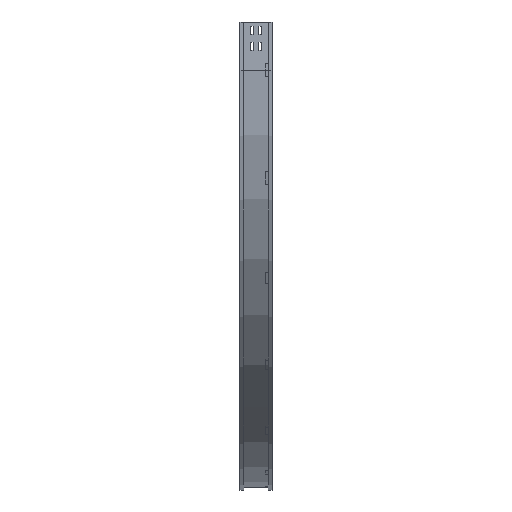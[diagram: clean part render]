
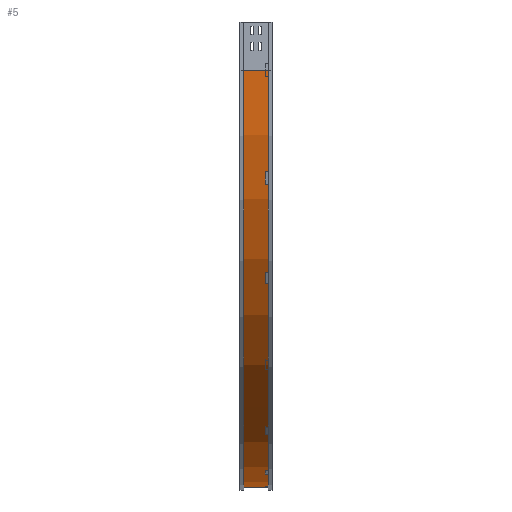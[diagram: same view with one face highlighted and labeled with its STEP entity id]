
A CAD part, left-side view. The second image highlights one B-rep face of the part: STEP entity #5.
In plain terms, the highlighted cylindrical face has radius 1300 mm (diameter 2600 mm), a partial arc.
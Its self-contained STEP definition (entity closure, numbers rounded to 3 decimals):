
#5 = ADVANCED_FACE ( 'NONE', ( #4155 ), #1339, .T. ) ;
#223 = VERTEX_POINT ( 'NONE', #1619 ) ;
#304 = CARTESIAN_POINT ( 'NONE',  ( 1309., 88., -150. ) ) ;
#426 = LINE ( 'NONE', #3242, #625 ) ;
#427 = CARTESIAN_POINT ( 'NONE',  ( 9., 12., -150. ) ) ;
#490 = EDGE_CURVE ( 'NONE', #223, #1748, #1092, .T. ) ;
#501 = ORIENTED_EDGE ( 'NONE', *, *, #1650, .T. ) ;
#625 = VECTOR ( 'NONE', #747, 1000. ) ;
#747 = DIRECTION ( 'NONE',  ( 0., -1., 0. ) ) ;
#985 = CARTESIAN_POINT ( 'NONE',  ( 1309., 12., -150. ) ) ;
#995 = DIRECTION ( 'NONE',  ( 0., 0., -1. ) ) ;
#1092 = LINE ( 'NONE', #1116, #3055 ) ;
#1116 = CARTESIAN_POINT ( 'NONE',  ( 1309., 12., -1450. ) ) ;
#1150 = ORIENTED_EDGE ( 'NONE', *, *, #490, .T. ) ;
#1216 = CIRCLE ( 'NONE', #3928, 1300. ) ;
#1287 = VERTEX_POINT ( 'NONE', #1508 ) ;
#1339 = CYLINDRICAL_SURFACE ( 'NONE', #4070, 1300. ) ;
#1359 = AXIS2_PLACEMENT_3D ( 'NONE', #985, #4513, #3831 ) ;
#1441 = CIRCLE ( 'NONE', #1359, 1300. ) ;
#1508 = CARTESIAN_POINT ( 'NONE',  ( 9., 88., -150. ) ) ;
#1619 = CARTESIAN_POINT ( 'NONE',  ( 1309., 88., -1450. ) ) ;
#1650 = EDGE_CURVE ( 'NONE', #1287, #223, #1216, .T. ) ;
#1726 = EDGE_LOOP ( 'NONE', ( #4306, #2645, #501, #1150 ) ) ;
#1748 = VERTEX_POINT ( 'NONE', #2222 ) ;
#1762 = DIRECTION ( 'NONE',  ( -1., 0., 0. ) ) ;
#1788 = EDGE_CURVE ( 'NONE', #1287, #2873, #426, .T. ) ;
#2222 = CARTESIAN_POINT ( 'NONE',  ( 1309., 12., -1450. ) ) ;
#2501 = DIRECTION ( 'NONE',  ( 0., -1., 0. ) ) ;
#2645 = ORIENTED_EDGE ( 'NONE', *, *, #1788, .F. ) ;
#2742 = CARTESIAN_POINT ( 'NONE',  ( 1309., 0., -150. ) ) ;
#2873 = VERTEX_POINT ( 'NONE', #427 ) ;
#3055 = VECTOR ( 'NONE', #2501, 1000. ) ;
#3144 = EDGE_CURVE ( 'NONE', #2873, #1748, #1441, .T. ) ;
#3242 = CARTESIAN_POINT ( 'NONE',  ( 9., 12., -150. ) ) ;
#3831 = DIRECTION ( 'NONE',  ( -1., 0., 0. ) ) ;
#3928 = AXIS2_PLACEMENT_3D ( 'NONE', #304, #4492, #1762 ) ;
#4070 = AXIS2_PLACEMENT_3D ( 'NONE', #2742, #4128, #995 ) ;
#4128 = DIRECTION ( 'NONE',  ( 0., -1., 0. ) ) ;
#4155 = FACE_OUTER_BOUND ( 'NONE', #1726, .T. ) ;
#4306 = ORIENTED_EDGE ( 'NONE', *, *, #3144, .F. ) ;
#4492 = DIRECTION ( 'NONE',  ( 0., -1., 0. ) ) ;
#4513 = DIRECTION ( 'NONE',  ( 0., -1., 0. ) ) ;
